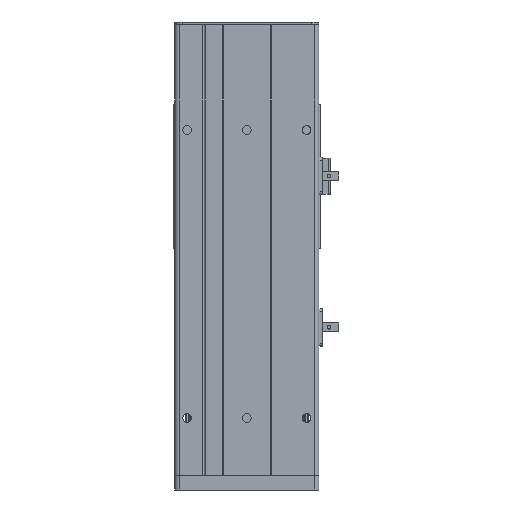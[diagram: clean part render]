
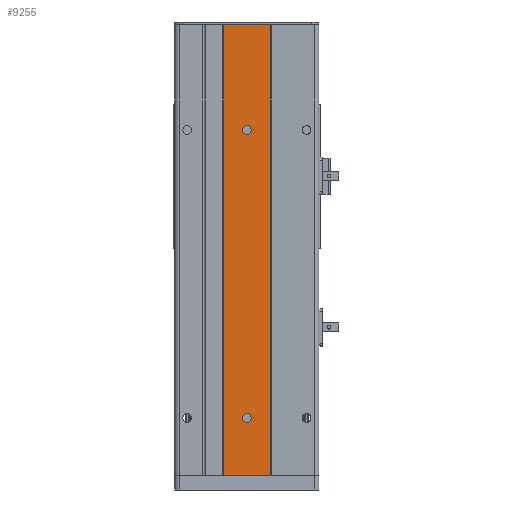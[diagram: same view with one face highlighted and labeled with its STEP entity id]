
A CAD part, front view. The second image highlights one B-rep face of the part: STEP entity #9255.
In plain terms, the highlighted planar face has unit normal (0, -1, 0).
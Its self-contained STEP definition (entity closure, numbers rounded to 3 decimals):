
#695 = EDGE_CURVE ( 'NONE', #13651, #15724, #7622, .T. ) ;
#957 = CIRCLE ( 'NONE', #8892, 3. ) ;
#1362 = FACE_OUTER_BOUND ( 'NONE', #20983, .T. ) ;
#1404 = ORIENTED_EDGE ( 'NONE', *, *, #27778, .F. ) ;
#1424 = DIRECTION ( 'NONE',  ( 0., 0., -1. ) ) ;
#2321 = ORIENTED_EDGE ( 'NONE', *, *, #26766, .T. ) ;
#2374 = CARTESIAN_POINT ( 'NONE',  ( 0., 0., 80.5 ) ) ;
#4316 = CARTESIAN_POINT ( 'NONE',  ( 0., 0., -119.5 ) ) ;
#4887 = LINE ( 'NONE', #28638, #29712 ) ;
#6719 = VECTOR ( 'NONE', #17478, 1000. ) ;
#7253 = CARTESIAN_POINT ( 'NONE',  ( -16.5, 0., 156.5 ) ) ;
#7360 = CARTESIAN_POINT ( 'NONE',  ( 0., 0., -113.5 ) ) ;
#7622 = CIRCLE ( 'NONE', #19931, 3. ) ;
#7798 = EDGE_CURVE ( 'NONE', #28655, #26231, #4887, .T. ) ;
#7827 = VECTOR ( 'NONE', #9766, 1000. ) ;
#8892 = AXIS2_PLACEMENT_3D ( 'NONE', #10506, #27329, #12940 ) ;
#9017 = EDGE_CURVE ( 'NONE', #28655, #9398, #19633, .T. ) ;
#9255 = ADVANCED_FACE ( 'NONE', ( #14312, #20000, #1362 ), #13693, .F. ) ;
#9398 = VERTEX_POINT ( 'NONE', #10918 ) ;
#9766 = DIRECTION ( 'NONE',  ( 0., 0., -1. ) ) ;
#9861 = EDGE_LOOP ( 'NONE', ( #1404, #31095 ) ) ;
#9926 = CARTESIAN_POINT ( 'NONE',  ( 16.5, 0., 156.5 ) ) ;
#9937 = DIRECTION ( 'NONE',  ( 0., -1., 0. ) ) ;
#10093 = ORIENTED_EDGE ( 'NONE', *, *, #25643, .F. ) ;
#10124 = ORIENTED_EDGE ( 'NONE', *, *, #11658, .F. ) ;
#10506 = CARTESIAN_POINT ( 'NONE',  ( 0., 0., -116.5 ) ) ;
#10918 = CARTESIAN_POINT ( 'NONE',  ( 16.5, 0., 156.5 ) ) ;
#10947 = AXIS2_PLACEMENT_3D ( 'NONE', #13684, #13649, #13644 ) ;
#11623 = CARTESIAN_POINT ( 'NONE',  ( -16.5, 0., -156.5 ) ) ;
#11658 = EDGE_CURVE ( 'NONE', #28141, #26123, #30346, .T. ) ;
#12085 = AXIS2_PLACEMENT_3D ( 'NONE', #27784, #13395, #30098 ) ;
#12940 = DIRECTION ( 'NONE',  ( 0., 0., -1. ) ) ;
#13395 = DIRECTION ( 'NONE',  ( 0., -1., 0. ) ) ;
#13410 = DIRECTION ( 'NONE',  ( 0., 0., 1. ) ) ;
#13439 = DIRECTION ( 'NONE',  ( 0., 1., 0. ) ) ;
#13589 = CARTESIAN_POINT ( 'NONE',  ( -16.5, 0., 156.5 ) ) ;
#13644 = DIRECTION ( 'NONE',  ( 0., 0., -1. ) ) ;
#13649 = DIRECTION ( 'NONE',  ( 0., -1., 0. ) ) ;
#13651 = VERTEX_POINT ( 'NONE', #7360 ) ;
#13684 = CARTESIAN_POINT ( 'NONE',  ( 0., 0., 83.5 ) ) ;
#13693 = PLANE ( 'NONE',  #14231 ) ;
#14025 = CIRCLE ( 'NONE', #12085, 3. ) ;
#14231 = AXIS2_PLACEMENT_3D ( 'NONE', #13589, #13439, #13410 ) ;
#14275 = LINE ( 'NONE', #9926, #7827 ) ;
#14312 = FACE_BOUND ( 'NONE', #9861, .T. ) ;
#14724 = VECTOR ( 'NONE', #28423, 1000. ) ;
#15724 = VERTEX_POINT ( 'NONE', #4316 ) ;
#16233 = CARTESIAN_POINT ( 'NONE',  ( 16.5, 0., -156.5 ) ) ;
#16869 = VERTEX_POINT ( 'NONE', #16233 ) ;
#17052 = EDGE_LOOP ( 'NONE', ( #10124, #10093 ) ) ;
#17152 = ORIENTED_EDGE ( 'NONE', *, *, #9017, .F. ) ;
#17478 = DIRECTION ( 'NONE',  ( 1., 0., 0. ) ) ;
#17618 = CARTESIAN_POINT ( 'NONE',  ( -16.5, 0., 156.5 ) ) ;
#19633 = LINE ( 'NONE', #17618, #6719 ) ;
#19931 = AXIS2_PLACEMENT_3D ( 'NONE', #19999, #9937, #1424 ) ;
#19999 = CARTESIAN_POINT ( 'NONE',  ( 0., 0., -116.5 ) ) ;
#20000 = FACE_BOUND ( 'NONE', #17052, .T. ) ;
#20983 = EDGE_LOOP ( 'NONE', ( #2321, #24685, #17152, #28132 ) ) ;
#21166 = LINE ( 'NONE', #11623, #14724 ) ;
#21965 = EDGE_CURVE ( 'NONE', #9398, #16869, #14275, .T. ) ;
#24685 = ORIENTED_EDGE ( 'NONE', *, *, #21965, .F. ) ;
#25643 = EDGE_CURVE ( 'NONE', #26123, #28141, #14025, .T. ) ;
#26123 = VERTEX_POINT ( 'NONE', #29767 ) ;
#26231 = VERTEX_POINT ( 'NONE', #27849 ) ;
#26766 = EDGE_CURVE ( 'NONE', #26231, #16869, #21166, .T. ) ;
#27329 = DIRECTION ( 'NONE',  ( 0., -1., 0. ) ) ;
#27778 = EDGE_CURVE ( 'NONE', #15724, #13651, #957, .T. ) ;
#27784 = CARTESIAN_POINT ( 'NONE',  ( 0., 0., 83.5 ) ) ;
#27849 = CARTESIAN_POINT ( 'NONE',  ( -16.5, 0., -156.5 ) ) ;
#28132 = ORIENTED_EDGE ( 'NONE', *, *, #7798, .T. ) ;
#28141 = VERTEX_POINT ( 'NONE', #2374 ) ;
#28201 = DIRECTION ( 'NONE',  ( 0., 0., -1. ) ) ;
#28423 = DIRECTION ( 'NONE',  ( 1., 0., 0. ) ) ;
#28638 = CARTESIAN_POINT ( 'NONE',  ( -16.5, 0., 156.5 ) ) ;
#28655 = VERTEX_POINT ( 'NONE', #7253 ) ;
#29712 = VECTOR ( 'NONE', #28201, 1000. ) ;
#29767 = CARTESIAN_POINT ( 'NONE',  ( 0., 0., 86.5 ) ) ;
#30098 = DIRECTION ( 'NONE',  ( 0., 0., -1. ) ) ;
#30346 = CIRCLE ( 'NONE', #10947, 3. ) ;
#31095 = ORIENTED_EDGE ( 'NONE', *, *, #695, .F. ) ;
